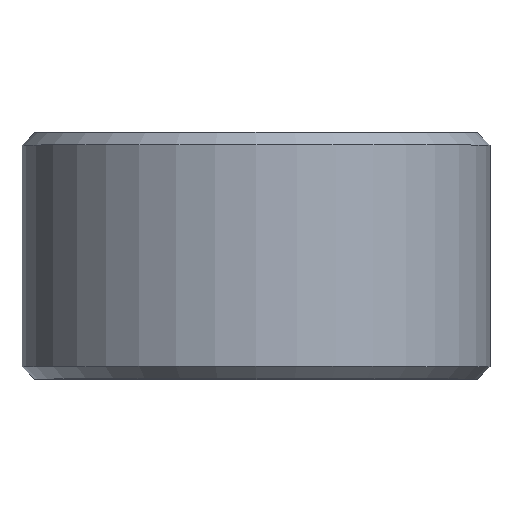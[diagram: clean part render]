
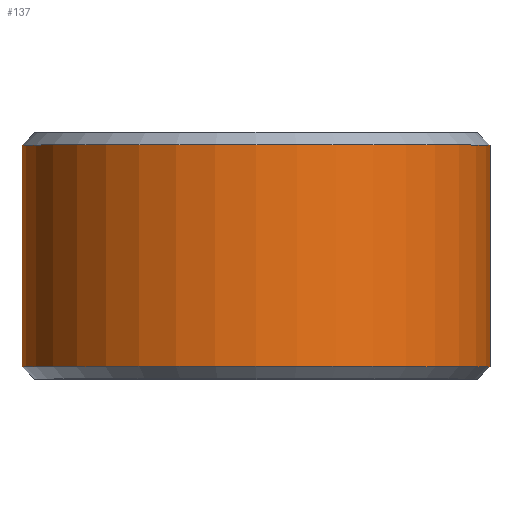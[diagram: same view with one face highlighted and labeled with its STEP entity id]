
A CAD part, top view. The second image highlights one B-rep face of the part: STEP entity #137.
In plain terms, the highlighted cylindrical face has radius 19 mm (diameter 38 mm), a full revolution.
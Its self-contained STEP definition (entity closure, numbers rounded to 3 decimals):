
#16=CYLINDRICAL_SURFACE('',#176,19.);
#25=FACE_OUTER_BOUND('',#34,.T.);
#34=EDGE_LOOP('',(#111,#112,#113,#114,#115,#116));
#42=LINE('',#261,#48);
#48=VECTOR('',#219,19.);
#57=CIRCLE('',#174,19.);
#58=CIRCLE('',#175,19.);
#59=CIRCLE('',#177,19.);
#60=CIRCLE('',#178,19.);
#69=VERTEX_POINT('',#251);
#70=VERTEX_POINT('',#252);
#71=VERTEX_POINT('',#257);
#72=VERTEX_POINT('',#258);
#83=EDGE_CURVE('',#69,#70,#57,.T.);
#84=EDGE_CURVE('',#70,#69,#58,.T.);
#86=EDGE_CURVE('',#71,#72,#59,.T.);
#87=EDGE_CURVE('',#72,#71,#60,.T.);
#88=EDGE_CURVE('',#72,#70,#42,.T.);
#111=ORIENTED_EDGE('',*,*,#86,.F.);
#112=ORIENTED_EDGE('',*,*,#87,.F.);
#113=ORIENTED_EDGE('',*,*,#88,.T.);
#114=ORIENTED_EDGE('',*,*,#83,.F.);
#115=ORIENTED_EDGE('',*,*,#84,.F.);
#116=ORIENTED_EDGE('',*,*,#88,.F.);
#137=ADVANCED_FACE('',(#25),#16,.T.);
#174=AXIS2_PLACEMENT_3D('',#253,#208,#209);
#175=AXIS2_PLACEMENT_3D('',#254,#210,#211);
#176=AXIS2_PLACEMENT_3D('',#256,#213,#214);
#177=AXIS2_PLACEMENT_3D('',#259,#215,#216);
#178=AXIS2_PLACEMENT_3D('',#260,#217,#218);
#208=DIRECTION('center_axis',(0.,1.,0.));
#209=DIRECTION('ref_axis',(-1.,0.,0.));
#210=DIRECTION('center_axis',(0.,1.,0.));
#211=DIRECTION('ref_axis',(-1.,0.,0.));
#213=DIRECTION('center_axis',(0.,-1.,0.));
#214=DIRECTION('ref_axis',(1.,0.,0.));
#215=DIRECTION('center_axis',(0.,-1.,0.));
#216=DIRECTION('ref_axis',(-1.,0.,0.));
#217=DIRECTION('center_axis',(0.,-1.,0.));
#218=DIRECTION('ref_axis',(-1.,0.,0.));
#219=DIRECTION('',(0.,1.,0.));
#251=CARTESIAN_POINT('',(19.,18.,0.));
#252=CARTESIAN_POINT('',(-19.,18.,0.));
#253=CARTESIAN_POINT('Origin',(0.,18.,0.));
#254=CARTESIAN_POINT('Origin',(0.,18.,0.));
#256=CARTESIAN_POINT('Origin',(0.,9.,0.));
#257=CARTESIAN_POINT('',(19.,0.,0.));
#258=CARTESIAN_POINT('',(-19.,0.,0.));
#259=CARTESIAN_POINT('Origin',(0.,0.,
0.));
#260=CARTESIAN_POINT('Origin',(0.,0.,
0.));
#261=CARTESIAN_POINT('',(-19.,9.,0.));
